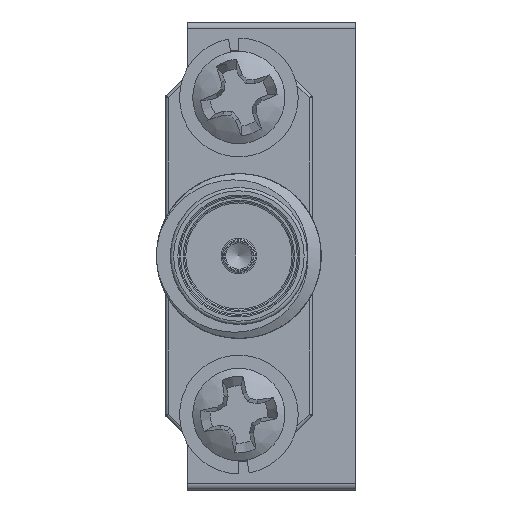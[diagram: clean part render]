
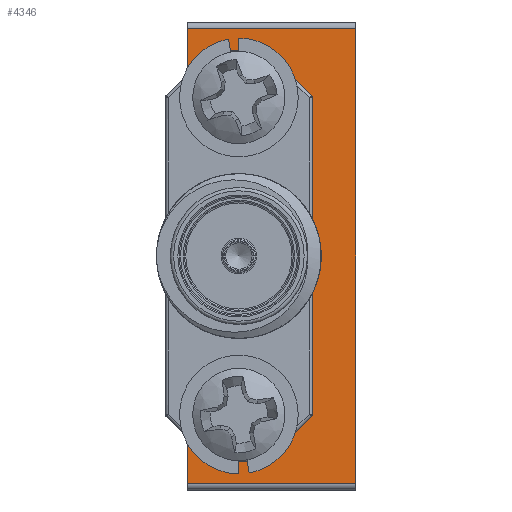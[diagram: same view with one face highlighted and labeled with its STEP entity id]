
A CAD part, left-side view. The second image highlights one B-rep face of the part: STEP entity #4346.
In plain terms, the highlighted planar face has unit normal (-1, 0, 0).
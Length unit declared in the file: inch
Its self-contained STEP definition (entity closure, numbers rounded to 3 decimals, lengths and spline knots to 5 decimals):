
#115 = DIRECTION ( 'NONE',  ( 0., 0., 1. ) ) ;
#220 = CARTESIAN_POINT ( 'NONE',  ( 39.08569, 39.73361, 39.36698 ) ) ;
#1595 = EDGE_CURVE ( 'NONE', #45676, #45676, #46070, .T. ) ;
#1668 = ORIENTED_EDGE ( 'NONE', *, *, #24644, .F. ) ;
#3292 = FACE_BOUND ( 'NONE', #7459, .T. ) ;
#4062 = EDGE_CURVE ( 'NONE', #30168, #17389, #25386, .T. ) ;
#4168 = VECTOR ( 'NONE', #115, 39.37008 ) ;
#4346 = ADVANCED_FACE ( 'NONE', ( #3292, #20930, #38679 ), #27802, .F. ) ;
#4615 = CARTESIAN_POINT ( 'NONE',  ( 39.08569, 39.58561, 39.53998 ) ) ;
#5043 = CARTESIAN_POINT ( 'NONE',  ( 39.08569, 39.73361, 39.37698 ) ) ;
#5953 = VECTOR ( 'NONE', #23791, 39.37008 ) ;
#6935 = DIRECTION ( 'NONE',  ( 0., 1., 0. ) ) ;
#7459 = EDGE_LOOP ( 'NONE', ( #12088 ) ) ;
#9454 = LINE ( 'NONE', #16702, #5953 ) ;
#9578 = CARTESIAN_POINT ( 'NONE',  ( 39.08569, 39.58561, 39.90398 ) ) ;
#10587 = ORIENTED_EDGE ( 'NONE', *, *, #1595, .F. ) ;
#11275 = LINE ( 'NONE', #35750, #31530 ) ;
#12088 = ORIENTED_EDGE ( 'NONE', *, *, #19586, .F. ) ;
#12271 = CARTESIAN_POINT ( 'NONE',  ( 39.08569, 39.73361, 39.90398 ) ) ;
#12574 = VERTEX_POINT ( 'NONE', #45133 ) ;
#13155 = CARTESIAN_POINT ( 'NONE',  ( 39.08569, 39.65761, 40.01448 ) ) ;
#13528 = CARTESIAN_POINT ( 'NONE',  ( 39.08569, 39.65761, 39.96198 ) ) ;
#14128 = DIRECTION ( 'NONE',  ( 0., 1., 0. ) ) ;
#14151 = DIRECTION ( 'NONE',  ( 0., 0., 1. ) ) ;
#14492 = EDGE_LOOP ( 'NONE', ( #10587 ) ) ;
#15240 = VERTEX_POINT ( 'NONE', #4615 ) ;
#15276 = LINE ( 'NONE', #9578, #19503 ) ;
#16640 = AXIS2_PLACEMENT_3D ( 'NONE', #36620, #44202, #26227 ) ;
#16702 = CARTESIAN_POINT ( 'NONE',  ( 39.08569, 39.58561, 39.90398 ) ) ;
#17161 = LINE ( 'NONE', #31558, #20502 ) ;
#17247 = EDGE_CURVE ( 'NONE', #12574, #35060, #11275, .T. ) ;
#17389 = VERTEX_POINT ( 'NONE', #40725 ) ;
#18457 = CARTESIAN_POINT ( 'NONE',  ( 39.08569, 39.58561, 39.53998 ) ) ;
#18950 = CARTESIAN_POINT ( 'NONE',  ( 39.08569, 39.73361, 39.53998 ) ) ;
#19357 = CARTESIAN_POINT ( 'NONE',  ( 39.08569, 39.58561, 39.90398 ) ) ;
#19503 = VECTOR ( 'NONE', #38546, 39.37008 ) ;
#19586 = EDGE_CURVE ( 'NONE', #31691, #31691, #21130, .T. ) ;
#19716 = ORIENTED_EDGE ( 'NONE', *, *, #43416, .T. ) ;
#20502 = VECTOR ( 'NONE', #14151, 39.37008 ) ;
#20930 = FACE_OUTER_BOUND ( 'NONE', #21283, .T. ) ;
#21130 = CIRCLE ( 'NONE', #16640, 0.0525 ) ;
#21283 = EDGE_LOOP ( 'NONE', ( #27939, #19716, #26037, #42878, #1668, #42957, #31575, #35883 ) ) ;
#21326 = DIRECTION ( 'NONE',  ( 0., 0., 1. ) ) ;
#22132 = DIRECTION ( 'NONE',  ( 1., 0., 0. ) ) ;
#23791 = DIRECTION ( 'NONE',  ( 0., 0., 1. ) ) ;
#24605 = DIRECTION ( 'NONE',  ( -1., 0., 0. ) ) ;
#24644 = EDGE_CURVE ( 'NONE', #15240, #28335, #9454, .T. ) ;
#24709 = VERTEX_POINT ( 'NONE', #18950 ) ;
#25386 = LINE ( 'NONE', #40705, #4168 ) ;
#25820 = EDGE_CURVE ( 'NONE', #28335, #30168, #15276, .T. ) ;
#26037 = ORIENTED_EDGE ( 'NONE', *, *, #4062, .F. ) ;
#26227 = DIRECTION ( 'NONE',  ( 0., 0., 1. ) ) ;
#26453 = VERTEX_POINT ( 'NONE', #5043 ) ;
#26456 = AXIS2_PLACEMENT_3D ( 'NONE', #13528, #24605, #27874 ) ;
#27802 = PLANE ( 'NONE',  #35062 ) ;
#27874 = DIRECTION ( 'NONE',  ( 0., 0., 1. ) ) ;
#27939 = ORIENTED_EDGE ( 'NONE', *, *, #17247, .T. ) ;
#28335 = VERTEX_POINT ( 'NONE', #19357 ) ;
#28853 = LINE ( 'NONE', #18457, #38616 ) ;
#29469 = DIRECTION ( 'NONE',  ( 0., 0., -1. ) ) ;
#30168 = VERTEX_POINT ( 'NONE', #12271 ) ;
#30865 = VECTOR ( 'NONE', #35047, 39.37008 ) ;
#31530 = VECTOR ( 'NONE', #21326, 39.37008 ) ;
#31558 = CARTESIAN_POINT ( 'NONE',  ( 39.08569, 39.73361, 39.36698 ) ) ;
#31575 = ORIENTED_EDGE ( 'NONE', *, *, #34548, .F. ) ;
#31691 = VERTEX_POINT ( 'NONE', #46110 ) ;
#33574 = VECTOR ( 'NONE', #14128, 39.37008 ) ;
#34548 = EDGE_CURVE ( 'NONE', #26453, #24709, #17161, .T. ) ;
#35047 = DIRECTION ( 'NONE',  ( 0., -1., 0. ) ) ;
#35060 = VERTEX_POINT ( 'NONE', #45848 ) ;
#35062 = AXIS2_PLACEMENT_3D ( 'NONE', #220, #22132, #29469 ) ;
#35526 = LINE ( 'NONE', #46191, #33574 ) ;
#35750 = CARTESIAN_POINT ( 'NONE',  ( 39.08569, 39.47861, 39.36698 ) ) ;
#35883 = ORIENTED_EDGE ( 'NONE', *, *, #38266, .T. ) ;
#36620 = CARTESIAN_POINT ( 'NONE',  ( 39.08569, 39.65761, 39.48098 ) ) ;
#38266 = EDGE_CURVE ( 'NONE', #26453, #12574, #40443, .T. ) ;
#38546 = DIRECTION ( 'NONE',  ( 0., 1., 0. ) ) ;
#38616 = VECTOR ( 'NONE', #6935, 39.37008 ) ;
#38679 = FACE_BOUND ( 'NONE', #14492, .T. ) ;
#39843 = EDGE_CURVE ( 'NONE', #15240, #24709, #28853, .T. ) ;
#40443 = LINE ( 'NONE', #44008, #30865 ) ;
#40705 = CARTESIAN_POINT ( 'NONE',  ( 39.08569, 39.73361, 39.36698 ) ) ;
#40725 = CARTESIAN_POINT ( 'NONE',  ( 39.08569, 39.73361, 40.06698 ) ) ;
#42878 = ORIENTED_EDGE ( 'NONE', *, *, #25820, .F. ) ;
#42957 = ORIENTED_EDGE ( 'NONE', *, *, #39843, .T. ) ;
#43416 = EDGE_CURVE ( 'NONE', #35060, #17389, #35526, .T. ) ;
#44008 = CARTESIAN_POINT ( 'NONE',  ( 39.08569, 39.73361, 39.37698 ) ) ;
#44202 = DIRECTION ( 'NONE',  ( -1., 0., 0. ) ) ;
#45133 = CARTESIAN_POINT ( 'NONE',  ( 39.08569, 39.47861, 39.37698 ) ) ;
#45676 = VERTEX_POINT ( 'NONE', #13155 ) ;
#45848 = CARTESIAN_POINT ( 'NONE',  ( 39.08569, 39.47861, 40.06698 ) ) ;
#46070 = CIRCLE ( 'NONE', #26456, 0.0525 ) ;
#46110 = CARTESIAN_POINT ( 'NONE',  ( 39.08569, 39.65761, 39.53348 ) ) ;
#46191 = CARTESIAN_POINT ( 'NONE',  ( 39.08569, 39.73361, 40.06698 ) ) ;
